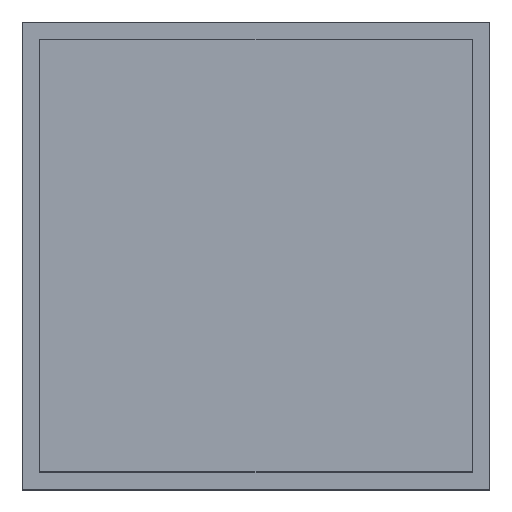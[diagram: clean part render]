
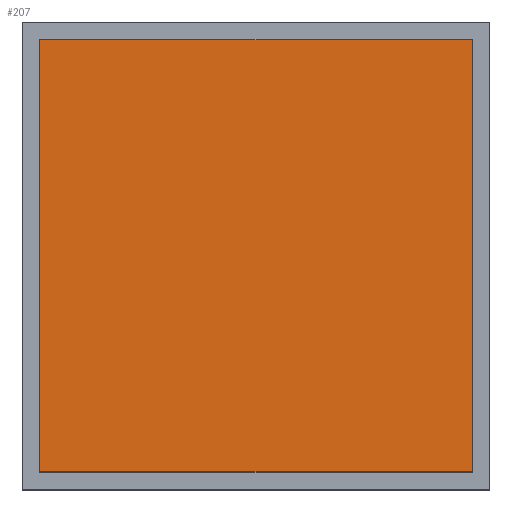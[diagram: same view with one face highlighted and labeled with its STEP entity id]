
A CAD part, top view. The second image highlights one B-rep face of the part: STEP entity #207.
In plain terms, the highlighted planar face has unit normal (0, 0, 1).
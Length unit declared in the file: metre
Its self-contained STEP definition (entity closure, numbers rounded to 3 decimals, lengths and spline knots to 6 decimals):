
#31=ORIENTED_EDGE('',*,*,#69,.F.);
#32=ORIENTED_EDGE('',*,*,#73,.T.);
#33=ORIENTED_EDGE('',*,*,#76,.T.);
#34=ORIENTED_EDGE('',*,*,#78,.F.);
#69=EDGE_CURVE('',#95,#96,#113,.T.);
#73=EDGE_CURVE('',#95,#98,#117,.T.);
#76=EDGE_CURVE('',#98,#100,#120,.T.);
#78=EDGE_CURVE('',#96,#100,#122,.T.);
#95=VERTEX_POINT('',#306);
#96=VERTEX_POINT('',#308);
#98=VERTEX_POINT('',#314);
#100=VERTEX_POINT('',#320);
#113=LINE('',#307,#137);
#117=LINE('',#315,#141);
#120=LINE('',#321,#144);
#122=LINE('',#324,#146);
#137=VECTOR('',#250,1.);
#141=VECTOR('',#256,1.);
#144=VECTOR('',#261,1.);
#146=VECTOR('',#265,1.);
#163=EDGE_LOOP('',(#31,#32,#33,#34));
#179=FACE_BOUND('',#163,.T.);
#195=PLANE('',#233);
#207=ADVANCED_FACE('',(#179),#195,.T.);
#233=AXIS2_PLACEMENT_3D('',#325,#266,#267);
#250=DIRECTION('',(0.,1.,0.));
#256=DIRECTION('',(1.,0.,0.));
#261=DIRECTION('',(0.,1.,0.));
#265=DIRECTION('',(1.,0.,0.));
#266=DIRECTION('',(0.,0.,1.));
#267=DIRECTION('',(1.,0.,0.));
#306=CARTESIAN_POINT('',(0.227,0.06462,0.0208));
#307=CARTESIAN_POINT('',(0.227,0.07312,0.0208));
#308=CARTESIAN_POINT('',(0.227,0.08162,0.0208));
#314=CARTESIAN_POINT('',(0.244,0.06462,0.0208));
#315=CARTESIAN_POINT('',(0.2355,0.06462,0.0208));
#320=CARTESIAN_POINT('',(0.244,0.08162,0.0208));
#321=CARTESIAN_POINT('',(0.244,0.07312,0.0208));
#324=CARTESIAN_POINT('',(0.2355,0.08162,0.0208));
#325=CARTESIAN_POINT('',(0.2355,0.07312,0.0208));
